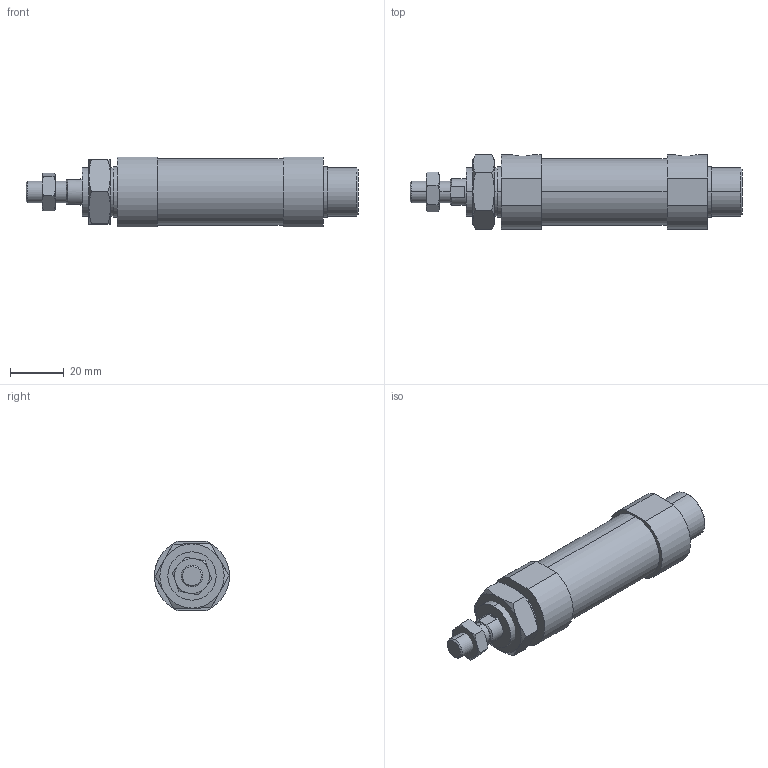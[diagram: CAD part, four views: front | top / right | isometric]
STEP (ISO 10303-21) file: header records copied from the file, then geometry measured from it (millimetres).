
FILE_DESCRIPTION (( 'STEP AP203' ), '1' );
FILE_NAME ('J#2-20-15-N.STEP', '2016-03-08T06:53:02', ( '' ), ( '' ), 'SwSTEP 2.0', 'SolidWorks 2014', '' );
FILE_SCHEMA (( 'CONFIG_CONTROL_DESIGN' ));
Length unit declared in the file: millimetre
Products named in the file (4): J#2-20-15; J#2-20-15-N
Assembly tree (3 placements, depth 2):
  J#2-20-15-N
    J#2-20-15
    (unnamed)
    (unnamed)
Bounding box: 124 x 28 x 26 mm (x, y, z)
Volume: 50299.8 mm3; surface area: 12620 mm2
Topology: 3 solids, 3 shells, 92 faces, 198 edges, 122 vertices
Faces by surface type: plane 36, cylinder 26, torus 24, cone 6
Entity records: 3250 total; most frequent: CARTESIAN_POINT 874, DIRECTION 420, ORIENTED_EDGE 396, EDGE_CURVE 198, AXIS2_PLACEMENT_3D 180, VERTEX_POINT 122, EDGE_LOOP 106, ADVANCED_FACE 92
